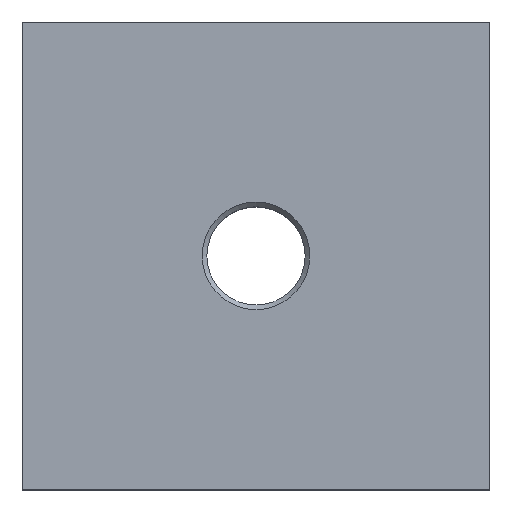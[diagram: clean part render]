
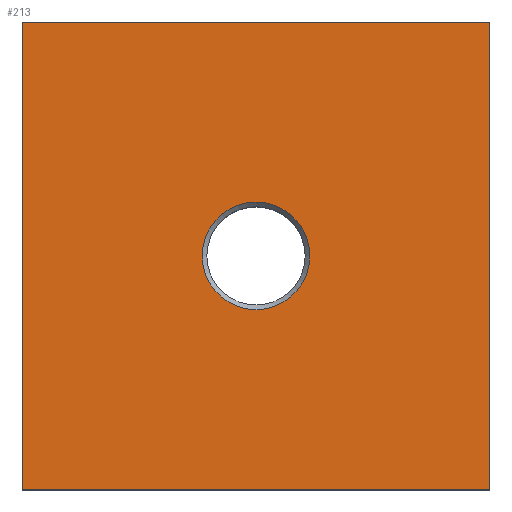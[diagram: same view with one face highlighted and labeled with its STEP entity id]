
A CAD part, top view. The second image highlights one B-rep face of the part: STEP entity #213.
In plain terms, the highlighted planar face has unit normal (0, 0, 1).
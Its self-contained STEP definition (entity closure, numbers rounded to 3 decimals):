
#24 = VERTEX_POINT('',#25);
#25 = CARTESIAN_POINT('',(-50.,-50.,30.));
#32 = PLANE('',#33);
#33 = AXIS2_PLACEMENT_3D('',#34,#35,#36);
#34 = CARTESIAN_POINT('',(-50.,-50.,0.));
#35 = DIRECTION('',(1.,0.,0.));
#36 = DIRECTION('',(0.,0.,1.));
#44 = PLANE('',#45);
#45 = AXIS2_PLACEMENT_3D('',#46,#47,#48);
#46 = CARTESIAN_POINT('',(-50.,-50.,0.));
#47 = DIRECTION('',(0.,1.,0.));
#48 = DIRECTION('',(0.,0.,1.));
#85 = VERTEX_POINT('',#86);
#86 = CARTESIAN_POINT('',(-50.,50.,30.));
#100 = PLANE('',#101);
#101 = AXIS2_PLACEMENT_3D('',#102,#103,#104);
#102 = CARTESIAN_POINT('',(-50.,50.,0.));
#103 = DIRECTION('',(0.,1.,0.));
#104 = DIRECTION('',(0.,0.,1.));
#112 = EDGE_CURVE('',#24,#85,#113,.T.);
#113 = SURFACE_CURVE('',#114,(#118,#125),.PCURVE_S1.);
#114 = LINE('',#115,#116);
#115 = CARTESIAN_POINT('',(-50.,-50.,30.));
#116 = VECTOR('',#117,1.);
#117 = DIRECTION('',(0.,1.,0.));
#118 = PCURVE('',#32,#119);
#119 = DEFINITIONAL_REPRESENTATION('',(#120),#124);
#120 = LINE('',#121,#122);
#121 = CARTESIAN_POINT('',(30.,0.));
#122 = VECTOR('',#123,1.);
#123 = DIRECTION('',(0.,-1.));
#124 = ( GEOMETRIC_REPRESENTATION_CONTEXT(2) 
PARAMETRIC_REPRESENTATION_CONTEXT() REPRESENTATION_CONTEXT('2D SPACE',''
  ) );
#125 = PCURVE('',#126,#131);
#126 = PLANE('',#127);
#127 = AXIS2_PLACEMENT_3D('',#128,#129,#130);
#128 = CARTESIAN_POINT('',(-50.,-50.,30.));
#129 = DIRECTION('',(0.,0.,1.));
#130 = DIRECTION('',(1.,0.,0.));
#131 = DEFINITIONAL_REPRESENTATION('',(#132),#136);
#132 = LINE('',#133,#134);
#133 = CARTESIAN_POINT('',(0.,0.));
#134 = VECTOR('',#135,1.);
#135 = DIRECTION('',(0.,1.));
#136 = ( GEOMETRIC_REPRESENTATION_CONTEXT(2) 
PARAMETRIC_REPRESENTATION_CONTEXT() REPRESENTATION_CONTEXT('2D SPACE',''
  ) );
#165 = EDGE_CURVE('',#24,#166,#168,.T.);
#166 = VERTEX_POINT('',#167);
#167 = CARTESIAN_POINT('',(50.,-50.,30.));
#168 = SURFACE_CURVE('',#169,(#173,#180),.PCURVE_S1.);
#169 = LINE('',#170,#171);
#170 = CARTESIAN_POINT('',(-50.,-50.,30.));
#171 = VECTOR('',#172,1.);
#172 = DIRECTION('',(1.,0.,0.));
#173 = PCURVE('',#44,#174);
#174 = DEFINITIONAL_REPRESENTATION('',(#175),#179);
#175 = LINE('',#176,#177);
#176 = CARTESIAN_POINT('',(30.,0.));
#177 = VECTOR('',#178,1.);
#178 = DIRECTION('',(0.,1.));
#179 = ( GEOMETRIC_REPRESENTATION_CONTEXT(2) 
PARAMETRIC_REPRESENTATION_CONTEXT() REPRESENTATION_CONTEXT('2D SPACE',''
  ) );
#180 = PCURVE('',#126,#181);
#181 = DEFINITIONAL_REPRESENTATION('',(#182),#186);
#182 = LINE('',#183,#184);
#183 = CARTESIAN_POINT('',(0.,0.));
#184 = VECTOR('',#185,1.);
#185 = DIRECTION('',(1.,0.));
#186 = ( GEOMETRIC_REPRESENTATION_CONTEXT(2) 
PARAMETRIC_REPRESENTATION_CONTEXT() REPRESENTATION_CONTEXT('2D SPACE',''
  ) );
#202 = PLANE('',#203);
#203 = AXIS2_PLACEMENT_3D('',#204,#205,#206);
#204 = CARTESIAN_POINT('',(50.,-50.,0.));
#205 = DIRECTION('',(1.,0.,0.));
#206 = DIRECTION('',(0.,0.,1.));
#213 = ADVANCED_FACE('',(#214,#262),#126,.T.);
#214 = FACE_BOUND('',#215,.T.);
#215 = EDGE_LOOP('',(#216,#217,#218,#241));
#216 = ORIENTED_EDGE('',*,*,#112,.F.);
#217 = ORIENTED_EDGE('',*,*,#165,.T.);
#218 = ORIENTED_EDGE('',*,*,#219,.T.);
#219 = EDGE_CURVE('',#166,#220,#222,.T.);
#220 = VERTEX_POINT('',#221);
#221 = CARTESIAN_POINT('',(50.,50.,30.));
#222 = SURFACE_CURVE('',#223,(#227,#234),.PCURVE_S1.);
#223 = LINE('',#224,#225);
#224 = CARTESIAN_POINT('',(50.,-50.,30.));
#225 = VECTOR('',#226,1.);
#226 = DIRECTION('',(0.,1.,0.));
#227 = PCURVE('',#126,#228);
#228 = DEFINITIONAL_REPRESENTATION('',(#229),#233);
#229 = LINE('',#230,#231);
#230 = CARTESIAN_POINT('',(100.,0.));
#231 = VECTOR('',#232,1.);
#232 = DIRECTION('',(0.,1.));
#233 = ( GEOMETRIC_REPRESENTATION_CONTEXT(2) 
PARAMETRIC_REPRESENTATION_CONTEXT() REPRESENTATION_CONTEXT('2D SPACE',''
  ) );
#234 = PCURVE('',#202,#235);
#235 = DEFINITIONAL_REPRESENTATION('',(#236),#240);
#236 = LINE('',#237,#238);
#237 = CARTESIAN_POINT('',(30.,0.));
#238 = VECTOR('',#239,1.);
#239 = DIRECTION('',(0.,-1.));
#240 = ( GEOMETRIC_REPRESENTATION_CONTEXT(2) 
PARAMETRIC_REPRESENTATION_CONTEXT() REPRESENTATION_CONTEXT('2D SPACE',''
  ) );
#241 = ORIENTED_EDGE('',*,*,#242,.F.);
#242 = EDGE_CURVE('',#85,#220,#243,.T.);
#243 = SURFACE_CURVE('',#244,(#248,#255),.PCURVE_S1.);
#244 = LINE('',#245,#246);
#245 = CARTESIAN_POINT('',(-50.,50.,30.));
#246 = VECTOR('',#247,1.);
#247 = DIRECTION('',(1.,0.,0.));
#248 = PCURVE('',#126,#249);
#249 = DEFINITIONAL_REPRESENTATION('',(#250),#254);
#250 = LINE('',#251,#252);
#251 = CARTESIAN_POINT('',(0.,100.));
#252 = VECTOR('',#253,1.);
#253 = DIRECTION('',(1.,0.));
#254 = ( GEOMETRIC_REPRESENTATION_CONTEXT(2) 
PARAMETRIC_REPRESENTATION_CONTEXT() REPRESENTATION_CONTEXT('2D SPACE',''
  ) );
#255 = PCURVE('',#100,#256);
#256 = DEFINITIONAL_REPRESENTATION('',(#257),#261);
#257 = LINE('',#258,#259);
#258 = CARTESIAN_POINT('',(30.,0.));
#259 = VECTOR('',#260,1.);
#260 = DIRECTION('',(0.,1.));
#261 = ( GEOMETRIC_REPRESENTATION_CONTEXT(2) 
PARAMETRIC_REPRESENTATION_CONTEXT() REPRESENTATION_CONTEXT('2D SPACE',''
  ) );
#262 = FACE_BOUND('',#263,.T.);
#263 = EDGE_LOOP('',(#264));
#264 = ORIENTED_EDGE('',*,*,#265,.F.);
#265 = EDGE_CURVE('',#266,#266,#268,.T.);
#266 = VERTEX_POINT('',#267);
#267 = CARTESIAN_POINT('',(11.5,0.,30.));
#268 = SURFACE_CURVE('',#269,(#274,#281),.PCURVE_S1.);
#269 = CIRCLE('',#270,11.5);
#270 = AXIS2_PLACEMENT_3D('',#271,#272,#273);
#271 = CARTESIAN_POINT('',(0.,0.,30.));
#272 = DIRECTION('',(0.,0.,1.));
#273 = DIRECTION('',(1.,0.,-0.));
#274 = PCURVE('',#126,#275);
#275 = DEFINITIONAL_REPRESENTATION('',(#276),#280);
#276 = CIRCLE('',#277,11.5);
#277 = AXIS2_PLACEMENT_2D('',#278,#279);
#278 = CARTESIAN_POINT('',(50.,50.));
#279 = DIRECTION('',(1.,0.));
#280 = ( GEOMETRIC_REPRESENTATION_CONTEXT(2) 
PARAMETRIC_REPRESENTATION_CONTEXT() REPRESENTATION_CONTEXT('2D SPACE',''
  ) );
#281 = PCURVE('',#282,#287);
#282 = CONICAL_SURFACE('',#283,10.5,0.785);
#283 = AXIS2_PLACEMENT_3D('',#284,#285,#286);
#284 = CARTESIAN_POINT('',(0.,0.,29.));
#285 = DIRECTION('',(0.,0.,1.));
#286 = DIRECTION('',(1.,0.,-0.));
#287 = DEFINITIONAL_REPRESENTATION('',(#288),#292);
#288 = LINE('',#289,#290);
#289 = CARTESIAN_POINT('',(0.,1.));
#290 = VECTOR('',#291,1.);
#291 = DIRECTION('',(1.,0.));
#292 = ( GEOMETRIC_REPRESENTATION_CONTEXT(2) 
PARAMETRIC_REPRESENTATION_CONTEXT() REPRESENTATION_CONTEXT('2D SPACE',''
  ) );
